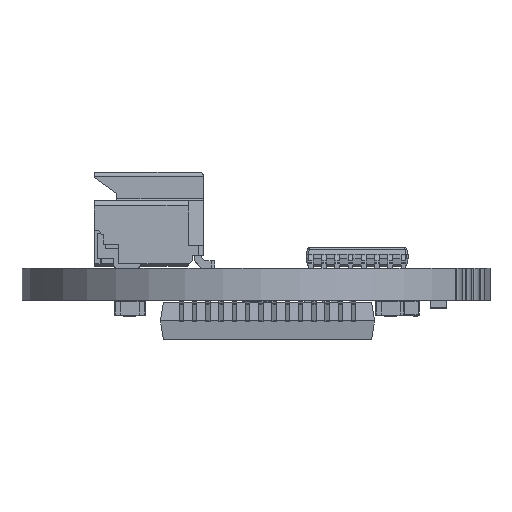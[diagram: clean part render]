
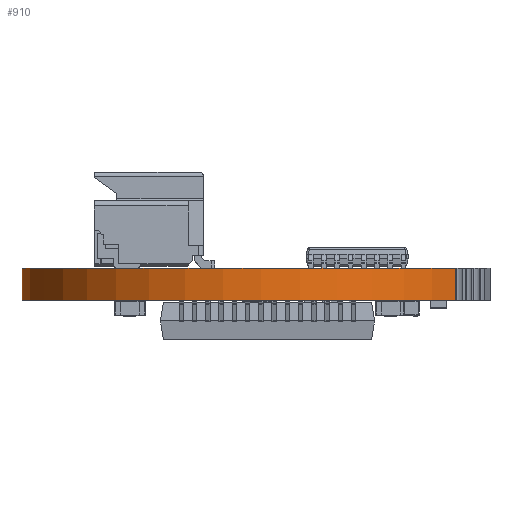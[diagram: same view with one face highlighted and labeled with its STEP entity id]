
A CAD part, left-side view. The second image highlights one B-rep face of the part: STEP entity #910.
In plain terms, the highlighted cylindrical face has radius 11.5 mm (diameter 23 mm), a partial arc.
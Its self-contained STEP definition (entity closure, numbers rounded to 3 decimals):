
#148 = PLANE('',#149);
#149 = AXIS2_PLACEMENT_3D('',#150,#151,#152);
#150 = CARTESIAN_POINT('',(11.5,0.,1.59));
#151 = DIRECTION('',(0.,0.,-1.));
#152 = DIRECTION('',(-1.,0.,0.));
#207 = PLANE('',#208);
#208 = AXIS2_PLACEMENT_3D('',#209,#210,#211);
#209 = CARTESIAN_POINT('',(11.5,0.,0.));
#210 = DIRECTION('',(0.,0.,-1.));
#211 = DIRECTION('',(-1.,0.,0.));
#760 = CYLINDRICAL_SURFACE('',#761,0.4);
#761 = AXIS2_PLACEMENT_3D('',#762,#763,#764);
#762 = CARTESIAN_POINT('',(2.903,10.992,0.));
#763 = DIRECTION('',(0.,0.,-1.));
#764 = DIRECTION('',(1.,0.,0.));
#828 = EDGE_CURVE('',#829,#831,#833,.T.);
#829 = VERTEX_POINT('',#830);
#830 = CARTESIAN_POINT('',(2.568,11.21,0.));
#831 = VERTEX_POINT('',#832);
#832 = CARTESIAN_POINT('',(2.568,11.21,1.59));
#833 = SURFACE_CURVE('',#834,(#838,#845),.PCURVE_S1.);
#834 = LINE('',#835,#836);
#835 = CARTESIAN_POINT('',(2.568,11.21,0.));
#836 = VECTOR('',#837,1.);
#837 = DIRECTION('',(0.,0.,1.));
#838 = PCURVE('',#760,#839);
#839 = DEFINITIONAL_REPRESENTATION('',(#840),#844);
#840 = LINE('',#841,#842);
#841 = CARTESIAN_POINT('',(-2.565,0.));
#842 = VECTOR('',#843,1.);
#843 = DIRECTION('',(0.,-1.));
#844 = ( GEOMETRIC_REPRESENTATION_CONTEXT(2) 
PARAMETRIC_REPRESENTATION_CONTEXT() REPRESENTATION_CONTEXT('2D SPACE',''
  ) );
#845 = PCURVE('',#846,#851);
#846 = CYLINDRICAL_SURFACE('',#847,11.5);
#847 = AXIS2_PLACEMENT_3D('',#848,#849,#850);
#848 = CARTESIAN_POINT('',(0.,0.,0.));
#849 = DIRECTION('',(0.,0.,-1.));
#850 = DIRECTION('',(1.,0.,0.));
#851 = DEFINITIONAL_REPRESENTATION('',(#852),#856);
#852 = LINE('',#853,#854);
#853 = CARTESIAN_POINT('',(-1.346,0.));
#854 = VECTOR('',#855,1.);
#855 = DIRECTION('',(0.,-1.));
#856 = ( GEOMETRIC_REPRESENTATION_CONTEXT(2) 
PARAMETRIC_REPRESENTATION_CONTEXT() REPRESENTATION_CONTEXT('2D SPACE',''
  ) );
#910 = ADVANCED_FACE('',(#911),#846,.T.);
#911 = FACE_BOUND('',#912,.F.);
#912 = EDGE_LOOP('',(#913,#914,#942,#970));
#913 = ORIENTED_EDGE('',*,*,#828,.T.);
#914 = ORIENTED_EDGE('',*,*,#915,.T.);
#915 = EDGE_CURVE('',#831,#916,#918,.T.);
#916 = VERTEX_POINT('',#917);
#917 = CARTESIAN_POINT('',(-6.072,-9.766,1.59));
#918 = SURFACE_CURVE('',#919,(#924,#931),.PCURVE_S1.);
#919 = CIRCLE('',#920,11.5);
#920 = AXIS2_PLACEMENT_3D('',#921,#922,#923);
#921 = CARTESIAN_POINT('',(0.,0.,1.59));
#922 = DIRECTION('',(0.,0.,1.));
#923 = DIRECTION('',(1.,0.,0.));
#924 = PCURVE('',#846,#925);
#925 = DEFINITIONAL_REPRESENTATION('',(#926),#930);
#926 = LINE('',#927,#928);
#927 = CARTESIAN_POINT('',(0.,-1.59));
#928 = VECTOR('',#929,1.);
#929 = DIRECTION('',(-1.,0.));
#930 = ( GEOMETRIC_REPRESENTATION_CONTEXT(2) 
PARAMETRIC_REPRESENTATION_CONTEXT() REPRESENTATION_CONTEXT('2D SPACE',''
  ) );
#931 = PCURVE('',#148,#932);
#932 = DEFINITIONAL_REPRESENTATION('',(#933),#941);
#933 = ( BOUNDED_CURVE() B_SPLINE_CURVE(2,(#934,#935,#936,#937,#938,#939
,#940),.UNSPECIFIED.,.F.,.F.) B_SPLINE_CURVE_WITH_KNOTS((1,2,2,2,2,1),(
    -2.094,0.,2.094,4.189,6.283,
8.378),.UNSPECIFIED.) CURVE() GEOMETRIC_REPRESENTATION_ITEM() 
RATIONAL_B_SPLINE_CURVE((1.,0.5,1.,0.5,1.,0.5,1.)) REPRESENTATION_ITEM(
  '') );
#934 = CARTESIAN_POINT('',(0.,0.));
#935 = CARTESIAN_POINT('',(0.,19.919));
#936 = CARTESIAN_POINT('',(17.25,9.959));
#937 = CARTESIAN_POINT('',(34.5,0.));
#938 = CARTESIAN_POINT('',(17.25,-9.959));
#939 = CARTESIAN_POINT('',(0.,-19.919));
#940 = CARTESIAN_POINT('',(0.,0.));
#941 = ( GEOMETRIC_REPRESENTATION_CONTEXT(2) 
PARAMETRIC_REPRESENTATION_CONTEXT() REPRESENTATION_CONTEXT('2D SPACE',''
  ) );
#942 = ORIENTED_EDGE('',*,*,#943,.F.);
#943 = EDGE_CURVE('',#944,#916,#946,.T.);
#944 = VERTEX_POINT('',#945);
#945 = CARTESIAN_POINT('',(-6.072,-9.766,0.));
#946 = SURFACE_CURVE('',#947,(#951,#958),.PCURVE_S1.);
#947 = LINE('',#948,#949);
#948 = CARTESIAN_POINT('',(-6.072,-9.766,0.));
#949 = VECTOR('',#950,1.);
#950 = DIRECTION('',(0.,0.,1.));
#951 = PCURVE('',#846,#952);
#952 = DEFINITIONAL_REPRESENTATION('',(#953),#957);
#953 = LINE('',#954,#955);
#954 = CARTESIAN_POINT('',(-4.156,0.));
#955 = VECTOR('',#956,1.);
#956 = DIRECTION('',(0.,-1.));
#957 = ( GEOMETRIC_REPRESENTATION_CONTEXT(2) 
PARAMETRIC_REPRESENTATION_CONTEXT() REPRESENTATION_CONTEXT('2D SPACE',''
  ) );
#958 = PCURVE('',#959,#964);
#959 = CYLINDRICAL_SURFACE('',#960,0.4);
#960 = AXIS2_PLACEMENT_3D('',#961,#962,#963);
#961 = CARTESIAN_POINT('',(-5.679,-9.842,0.));
#962 = DIRECTION('',(0.,0.,-1.));
#963 = DIRECTION('',(1.,0.,0.));
#964 = DEFINITIONAL_REPRESENTATION('',(#965),#969);
#965 = LINE('',#966,#967);
#966 = CARTESIAN_POINT('',(-2.952,0.));
#967 = VECTOR('',#968,1.);
#968 = DIRECTION('',(0.,-1.));
#969 = ( GEOMETRIC_REPRESENTATION_CONTEXT(2) 
PARAMETRIC_REPRESENTATION_CONTEXT() REPRESENTATION_CONTEXT('2D SPACE',''
  ) );
#970 = ORIENTED_EDGE('',*,*,#971,.F.);
#971 = EDGE_CURVE('',#829,#944,#972,.T.);
#972 = SURFACE_CURVE('',#973,(#978,#985),.PCURVE_S1.);
#973 = CIRCLE('',#974,11.5);
#974 = AXIS2_PLACEMENT_3D('',#975,#976,#977);
#975 = CARTESIAN_POINT('',(0.,0.,0.));
#976 = DIRECTION('',(0.,0.,1.));
#977 = DIRECTION('',(1.,0.,0.));
#978 = PCURVE('',#846,#979);
#979 = DEFINITIONAL_REPRESENTATION('',(#980),#984);
#980 = LINE('',#981,#982);
#981 = CARTESIAN_POINT('',(0.,0.));
#982 = VECTOR('',#983,1.);
#983 = DIRECTION('',(-1.,0.));
#984 = ( GEOMETRIC_REPRESENTATION_CONTEXT(2) 
PARAMETRIC_REPRESENTATION_CONTEXT() REPRESENTATION_CONTEXT('2D SPACE',''
  ) );
#985 = PCURVE('',#207,#986);
#986 = DEFINITIONAL_REPRESENTATION('',(#987),#995);
#987 = ( BOUNDED_CURVE() B_SPLINE_CURVE(2,(#988,#989,#990,#991,#992,#993
,#994),.UNSPECIFIED.,.F.,.F.) B_SPLINE_CURVE_WITH_KNOTS((1,2,2,2,2,1),(
    -2.094,0.,2.094,4.189,6.283,
8.378),.UNSPECIFIED.) CURVE() GEOMETRIC_REPRESENTATION_ITEM() 
RATIONAL_B_SPLINE_CURVE((1.,0.5,1.,0.5,1.,0.5,1.)) REPRESENTATION_ITEM(
  '') );
#988 = CARTESIAN_POINT('',(0.,0.));
#989 = CARTESIAN_POINT('',(0.,19.919));
#990 = CARTESIAN_POINT('',(17.25,9.959));
#991 = CARTESIAN_POINT('',(34.5,0.));
#992 = CARTESIAN_POINT('',(17.25,-9.959));
#993 = CARTESIAN_POINT('',(0.,-19.919));
#994 = CARTESIAN_POINT('',(0.,0.));
#995 = ( GEOMETRIC_REPRESENTATION_CONTEXT(2) 
PARAMETRIC_REPRESENTATION_CONTEXT() REPRESENTATION_CONTEXT('2D SPACE',''
  ) );
